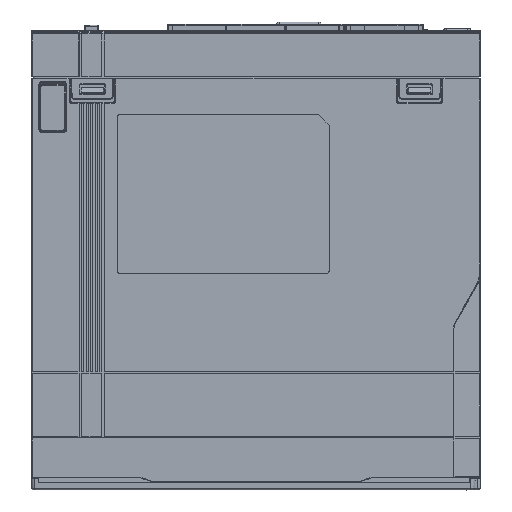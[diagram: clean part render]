
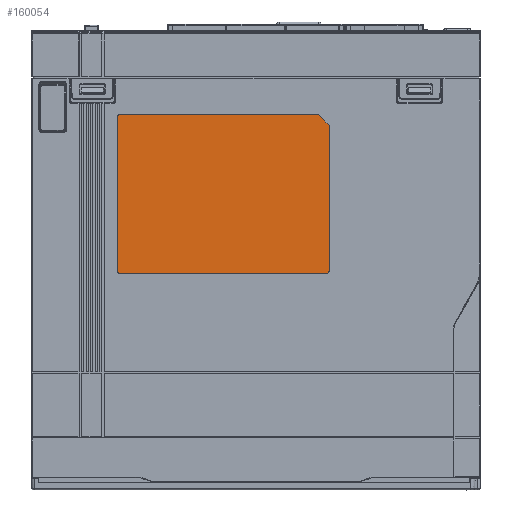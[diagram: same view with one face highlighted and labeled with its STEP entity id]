
A CAD part, left-side view. The second image highlights one B-rep face of the part: STEP entity #160054.
In plain terms, the highlighted planar face has unit normal (-1, 0, 0) as drawn and (0, 0, -1) by its records, which use the part's own axes.
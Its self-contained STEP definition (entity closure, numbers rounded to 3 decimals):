
#144221=CARTESIAN_POINT('',(2.75,-51.5,0.45));
#144222=DIRECTION('',(0.,0.,1.));
#144223=DIRECTION('',(-1.,0.,0.));
#144224=AXIS2_PLACEMENT_3D('',#144221,#144222,#144223);
#144229=DIRECTION('',(1.,0.,0.));
#144230=VECTOR('',#144229,58.2);
#144231=CARTESIAN_POINT('',(2.75,-52.5,0.45));
#144232=LINE('',#144231,#144230);
#144236=CARTESIAN_POINT('',(60.95,-51.5,0.45));
#144237=DIRECTION('',(0.,0.,1.));
#144238=DIRECTION('',(0.,-1.,0.));
#144239=AXIS2_PLACEMENT_3D('',#144236,#144237,#144238);
#144244=DIRECTION('',(0.,1.,0.));
#144245=VECTOR('',#144244,75.2);
#144246=CARTESIAN_POINT('',(61.95,-51.5,0.45));
#144247=LINE('',#144246,#144245);
#144251=DIRECTION('',(-0.707,0.707,0.));
#144252=VECTOR('',#144251,5.657);
#144253=CARTESIAN_POINT('',(61.95,23.7,0.45));
#144254=LINE('',#144253,#144252);
#144258=DIRECTION('',(-1.,0.,0.));
#144259=VECTOR('',#144258,55.2);
#144260=CARTESIAN_POINT('',(57.95,27.7,0.45));
#144261=LINE('',#144260,#144259);
#144265=CARTESIAN_POINT('',(2.75,26.7,0.45));
#144266=DIRECTION('',(0.,0.,1.));
#144267=DIRECTION('',(0.,1.,0.));
#144268=AXIS2_PLACEMENT_3D('',#144265,#144266,#144267);
#144273=DIRECTION('',(0.,-1.,0.));
#144274=VECTOR('',#144273,78.2);
#144275=CARTESIAN_POINT('',(1.75,26.7,0.45));
#144276=LINE('',#144275,#144274);
#149678=CARTESIAN_POINT('',(61.95,-51.5,0.45));
#149679=VERTEX_POINT('',#149678);
#149680=CARTESIAN_POINT('',(61.95,23.7,0.45));
#149681=VERTEX_POINT('',#149680);
#149682=CARTESIAN_POINT('',(60.95,-52.5,0.45));
#149683=VERTEX_POINT('',#149682);
#149684=CARTESIAN_POINT('',(1.75,-51.5,0.45));
#149685=CARTESIAN_POINT('',(2.75,-52.5,0.45));
#149686=VERTEX_POINT('',#149684);
#149687=VERTEX_POINT('',#149685);
#149688=CARTESIAN_POINT('',(57.95,27.7,0.45));
#149689=VERTEX_POINT('',#149688);
#149690=CARTESIAN_POINT('',(2.75,27.7,0.45));
#149691=VERTEX_POINT('',#149690);
#149692=CARTESIAN_POINT('',(1.75,26.7,0.45));
#149693=VERTEX_POINT('',#149692);
#160033=CARTESIAN_POINT('',(0.,0.,0.45));
#160034=DIRECTION('',(0.,0.,-1.));
#160035=DIRECTION('',(1.,0.,0.));
#160036=AXIS2_PLACEMENT_3D('',#160033,#160034,#160035);
#160037=PLANE('',#160036);
#160039=ORIENTED_EDGE('',*,*,#160038,.T.);
#160041=ORIENTED_EDGE('',*,*,#160040,.T.);
#160042=ORIENTED_EDGE('',*,*,#160024,.T.);
#160043=ORIENTED_EDGE('',*,*,#160014,.T.);
#160045=ORIENTED_EDGE('',*,*,#160044,.T.);
#160047=ORIENTED_EDGE('',*,*,#160046,.T.);
#160049=ORIENTED_EDGE('',*,*,#160048,.T.);
#160051=ORIENTED_EDGE('',*,*,#160050,.T.);
#160052=EDGE_LOOP('',(#160039,#160041,#160042,#160043,#160045,#160047,#160049,
#160051));
#160053=FACE_OUTER_BOUND('',#160052,.F.);
#144225=CIRCLE('',#144224,1.);
#144240=CIRCLE('',#144239,1.);
#144269=CIRCLE('',#144268,1.);
#160014=EDGE_CURVE('',#149679,#149681,#144247,.T.);
#160024=EDGE_CURVE('',#149683,#149679,#144240,.T.);
#160038=EDGE_CURVE('',#149686,#149687,#144225,.T.);
#160040=EDGE_CURVE('',#149687,#149683,#144232,.T.);
#160044=EDGE_CURVE('',#149681,#149689,#144254,.T.);
#160046=EDGE_CURVE('',#149689,#149691,#144261,.T.);
#160048=EDGE_CURVE('',#149691,#149693,#144269,.T.);
#160050=EDGE_CURVE('',#149693,#149686,#144276,.T.);
#160054=ADVANCED_FACE('',(#160053),#160037,.T.);
